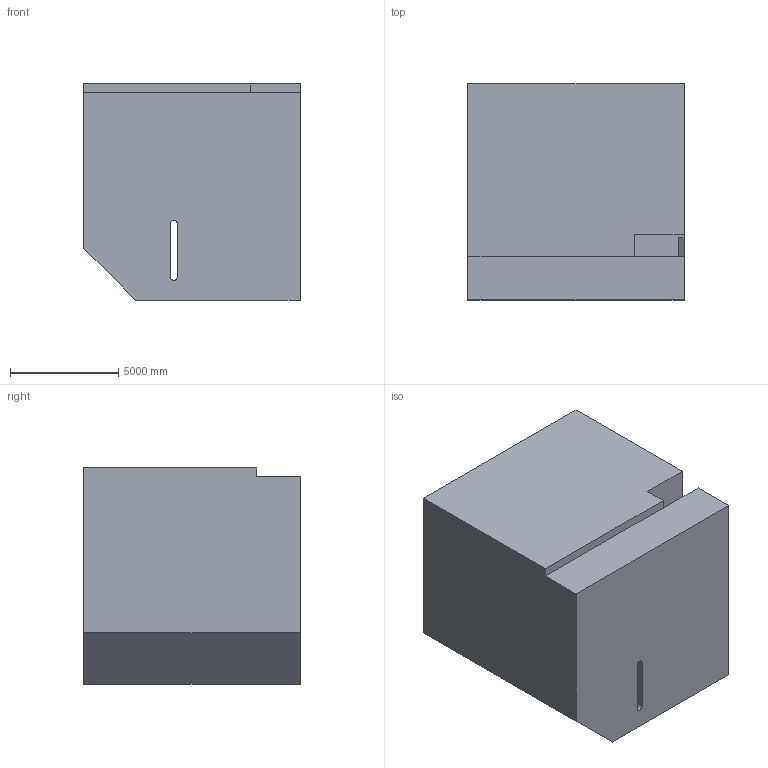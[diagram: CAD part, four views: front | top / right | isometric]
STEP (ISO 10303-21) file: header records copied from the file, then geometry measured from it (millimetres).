
FILE_DESCRIPTION (( 'STEP AP203' ), '1' );
FILE_NAME ('48.STEP', '2022-09-02T13:50:28', ( 'user' ), ( '' ), 'SwSTEP 2.0', 'SolidWorks 2021', '' );
FILE_SCHEMA (( 'CONFIG_CONTROL_DESIGN' ));
Length unit declared in the file: centimetre
Products named in the file (1): 48
Bounding box: 10000 x 10000 x 10000 mm (x, y, z)
Volume: 948849746790.9 mm3; surface area: 644865473.3 mm2
Topology: 1 solids, 1 shells, 25 faces, 69 edges, 46 vertices
Faces by surface type: plane 22, cylinder 3
Entity records: 870 total; most frequent: CARTESIAN_POINT 141, ORIENTED_EDGE 138, DIRECTION 127, EDGE_CURVE 69, VECTOR 63, LINE 63, VERTEX_POINT 46, AXIS2_PLACEMENT_3D 32
